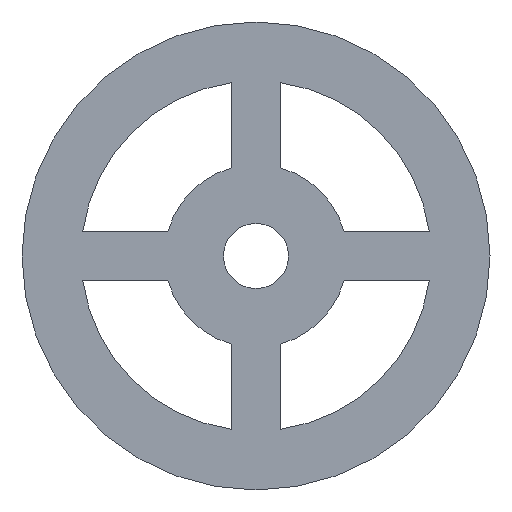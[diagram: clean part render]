
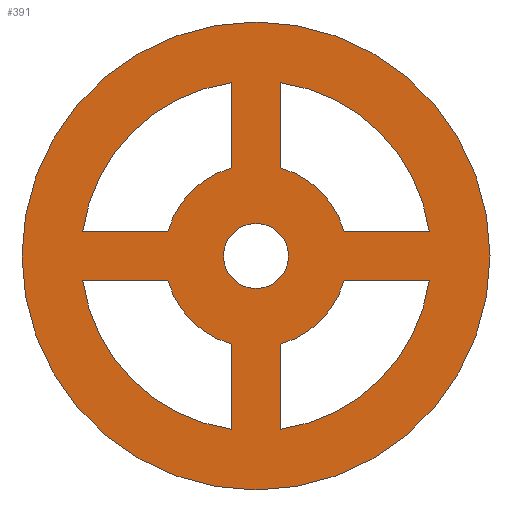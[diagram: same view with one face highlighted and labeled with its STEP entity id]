
A CAD part, left-side view. The second image highlights one B-rep face of the part: STEP entity #391.
In plain terms, the highlighted planar face has unit normal (-1, 0, 0).
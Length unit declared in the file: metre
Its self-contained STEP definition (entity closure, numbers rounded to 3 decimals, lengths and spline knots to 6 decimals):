
#12=CIRCLE('',#407,0.008896);
#14=CIRCLE('',#411,0.008896);
#16=CIRCLE('',#415,0.00465);
#18=CIRCLE('',#418,0.008896);
#20=CIRCLE('',#422,0.00465);
#22=CIRCLE('',#425,0.008896);
#24=CIRCLE('',#429,0.00465);
#27=CIRCLE('',#433,0.011896);
#28=CIRCLE('',#435,0.00465);
#31=CIRCLE('',#442,0.00165);
#128=ORIENTED_EDGE('',*,*,#176,.T.);
#129=ORIENTED_EDGE('',*,*,#194,.F.);
#130=ORIENTED_EDGE('',*,*,#183,.F.);
#131=ORIENTED_EDGE('',*,*,#180,.T.);
#132=ORIENTED_EDGE('',*,*,#166,.T.);
#133=ORIENTED_EDGE('',*,*,#192,.F.);
#134=ORIENTED_EDGE('',*,*,#173,.F.);
#135=ORIENTED_EDGE('',*,*,#170,.T.);
#136=ORIENTED_EDGE('',*,*,#156,.T.);
#137=ORIENTED_EDGE('',*,*,#190,.T.);
#138=ORIENTED_EDGE('',*,*,#163,.F.);
#139=ORIENTED_EDGE('',*,*,#160,.F.);
#140=ORIENTED_EDGE('',*,*,#146,.T.);
#141=ORIENTED_EDGE('',*,*,#188,.F.);
#142=ORIENTED_EDGE('',*,*,#153,.T.);
#143=ORIENTED_EDGE('',*,*,#150,.T.);
#144=ORIENTED_EDGE('',*,*,#187,.F.);
#145=ORIENTED_EDGE('',*,*,#197,.T.);
#146=EDGE_CURVE('',#198,#199,#234,.T.);
#150=EDGE_CURVE('',#202,#198,#12,.T.);
#153=EDGE_CURVE('',#204,#202,#239,.T.);
#156=EDGE_CURVE('',#206,#207,#14,.T.);
#160=EDGE_CURVE('',#206,#210,#244,.T.);
#163=EDGE_CURVE('',#210,#212,#16,.T.);
#166=EDGE_CURVE('',#214,#215,#18,.T.);
#170=EDGE_CURVE('',#218,#214,#250,.T.);
#173=EDGE_CURVE('',#218,#220,#20,.T.);
#176=EDGE_CURVE('',#222,#223,#22,.T.);
#180=EDGE_CURVE('',#226,#222,#256,.T.);
#183=EDGE_CURVE('',#226,#228,#24,.T.);
#187=EDGE_CURVE('',#231,#231,#27,.T.);
#188=EDGE_CURVE('',#204,#199,#28,.T.);
#190=EDGE_CURVE('',#207,#212,#260,.T.);
#192=EDGE_CURVE('',#220,#215,#262,.T.);
#194=EDGE_CURVE('',#228,#223,#264,.T.);
#197=EDGE_CURVE('',#233,#233,#31,.T.);
#198=VERTEX_POINT('',#562);
#199=VERTEX_POINT('',#563);
#202=VERTEX_POINT('',#571);
#204=VERTEX_POINT('',#577);
#206=VERTEX_POINT('',#583);
#207=VERTEX_POINT('',#584);
#210=VERTEX_POINT('',#592);
#212=VERTEX_POINT('',#598);
#214=VERTEX_POINT('',#604);
#215=VERTEX_POINT('',#605);
#218=VERTEX_POINT('',#613);
#220=VERTEX_POINT('',#619);
#222=VERTEX_POINT('',#625);
#223=VERTEX_POINT('',#626);
#226=VERTEX_POINT('',#634);
#228=VERTEX_POINT('',#640);
#231=VERTEX_POINT('',#648);
#233=VERTEX_POINT('',#665);
#234=LINE('',#561,#266);
#239=LINE('',#576,#271);
#244=LINE('',#591,#276);
#250=LINE('',#612,#282);
#256=LINE('',#633,#288);
#260=LINE('',#653,#292);
#262=LINE('',#656,#294);
#264=LINE('',#659,#296);
#266=VECTOR('',#449,1.);
#271=VECTOR('',#462,1.);
#276=VECTOR('',#475,1.);
#282=VECTOR('',#495,1.);
#288=VECTOR('',#515,1.);
#292=VECTOR('',#539,1.);
#294=VECTOR('',#543,1.);
#296=VECTOR('',#547,1.);
#324=EDGE_LOOP('',(#128,#129,#130,#131));
#325=EDGE_LOOP('',(#132,#133,#134,#135));
#326=EDGE_LOOP('',(#136,#137,#138,#139));
#327=EDGE_LOOP('',(#140,#141,#142,#143));
#328=EDGE_LOOP('',(#144));
#329=EDGE_LOOP('',(#145));
#356=FACE_BOUND('',#324,.T.);
#357=FACE_BOUND('',#325,.T.);
#358=FACE_BOUND('',#326,.T.);
#359=FACE_BOUND('',#327,.T.);
#360=FACE_BOUND('',#328,.T.);
#361=FACE_BOUND('',#329,.T.);
#371=PLANE('',#444);
#391=ADVANCED_FACE('',(#356,#357,#358,#359,#360,#361),#371,.F.);
#407=AXIS2_PLACEMENT_3D('',#570,#455,#456);
#411=AXIS2_PLACEMENT_3D('',#582,#467,#468);
#415=AXIS2_PLACEMENT_3D('',#597,#480,#481);
#418=AXIS2_PLACEMENT_3D('',#603,#487,#488);
#422=AXIS2_PLACEMENT_3D('',#618,#500,#501);
#425=AXIS2_PLACEMENT_3D('',#624,#507,#508);
#429=AXIS2_PLACEMENT_3D('',#639,#520,#521);
#433=AXIS2_PLACEMENT_3D('',#647,#529,#530);
#435=AXIS2_PLACEMENT_3D('',#650,#533,#534);
#442=AXIS2_PLACEMENT_3D('',#664,#553,#554);
#444=AXIS2_PLACEMENT_3D('',#667,#557,#558);
#449=DIRECTION('',(0.,0.,-1.));
#455=DIRECTION('',(1.,0.,0.));
#456=DIRECTION('',(0.,0.,-1.));
#462=DIRECTION('',(0.,1.,0.));
#467=DIRECTION('',(1.,0.,0.));
#468=DIRECTION('',(0.,0.,-1.));
#475=DIRECTION('',(0.,0.,-1.));
#480=DIRECTION('',(1.,0.,0.));
#481=DIRECTION('',(0.,0.,-1.));
#487=DIRECTION('',(1.,0.,0.));
#488=DIRECTION('',(0.,0.,-1.));
#495=DIRECTION('',(0.,-1.,0.));
#500=DIRECTION('',(1.,0.,0.));
#501=DIRECTION('',(0.,0.,-1.));
#507=DIRECTION('',(1.,0.,0.));
#508=DIRECTION('',(0.,0.,-1.));
#515=DIRECTION('',(0.,0.,-1.));
#520=DIRECTION('',(1.,0.,0.));
#521=DIRECTION('',(0.,0.,-1.));
#529=DIRECTION('',(1.,0.,0.));
#530=DIRECTION('',(0.,0.,-1.));
#533=DIRECTION('',(1.,0.,0.));
#534=DIRECTION('',(0.,0.,-1.));
#539=DIRECTION('',(0.,1.,0.));
#543=DIRECTION('',(0.,0.,-1.));
#547=DIRECTION('',(0.,1.,0.));
#553=DIRECTION('',(1.,0.,0.));
#554=DIRECTION('',(0.,0.,-1.));
#557=DIRECTION('',(1.,0.,0.));
#558=DIRECTION('',(0.,1.,0.));
#561=CARTESIAN_POINT('',(-0.004,0.08125,-0.01646));
#562=CARTESIAN_POINT('',(-0.004,0.08125,-0.014296));
#563=CARTESIAN_POINT('',(-0.004,0.08125,-0.018625));
#570=CARTESIAN_POINT('',(-0.004,0.08,-0.023104));
#571=CARTESIAN_POINT('',(-0.004,0.088808,-0.021854));
#576=CARTESIAN_POINT('',(-0.004,0.086643,-0.021854));
#577=CARTESIAN_POINT('',(-0.004,0.084479,-0.021854));
#582=CARTESIAN_POINT('',(-0.004,0.08,-0.023104));
#583=CARTESIAN_POINT('',(-0.004,0.07875,-0.014296));
#584=CARTESIAN_POINT('',(-0.004,0.071192,-0.021854));
#591=CARTESIAN_POINT('',(-0.004,0.07875,-0.01646));
#592=CARTESIAN_POINT('',(-0.004,0.07875,-0.018625));
#597=CARTESIAN_POINT('',(-0.004,0.08,-0.023104));
#598=CARTESIAN_POINT('',(-0.004,0.075521,-0.021854));
#603=CARTESIAN_POINT('',(-0.004,0.08,-0.023104));
#604=CARTESIAN_POINT('',(-0.004,0.071192,-0.024354));
#605=CARTESIAN_POINT('',(-0.004,0.07875,-0.031912));
#612=CARTESIAN_POINT('',(-0.004,0.073357,-0.024354));
#613=CARTESIAN_POINT('',(-0.004,0.075521,-0.024354));
#618=CARTESIAN_POINT('',(-0.004,0.08,-0.023104));
#619=CARTESIAN_POINT('',(-0.004,0.07875,-0.027583));
#624=CARTESIAN_POINT('',(-0.004,0.08,-0.023104));
#625=CARTESIAN_POINT('',(-0.004,0.08125,-0.031912));
#626=CARTESIAN_POINT('',(-0.004,0.088808,-0.024354));
#633=CARTESIAN_POINT('',(-0.004,0.08125,-0.029747));
#634=CARTESIAN_POINT('',(-0.004,0.08125,-0.027583));
#639=CARTESIAN_POINT('',(-0.004,0.08,-0.023104));
#640=CARTESIAN_POINT('',(-0.004,0.084479,-0.024354));
#647=CARTESIAN_POINT('',(-0.004,0.08,-0.023104));
#648=CARTESIAN_POINT('',(-0.004,0.08,-0.035));
#650=CARTESIAN_POINT('',(-0.004,0.08,-0.023104));
#653=CARTESIAN_POINT('',(-0.004,0.073357,-0.021854));
#656=CARTESIAN_POINT('',(-0.004,0.07875,-0.029747));
#659=CARTESIAN_POINT('',(-0.004,0.086643,-0.024354));
#664=CARTESIAN_POINT('',(-0.004,0.08,-0.023104));
#665=CARTESIAN_POINT('',(-0.004,0.08,-0.024754));
#667=CARTESIAN_POINT('',(-0.004,0.08,-0.023104));
